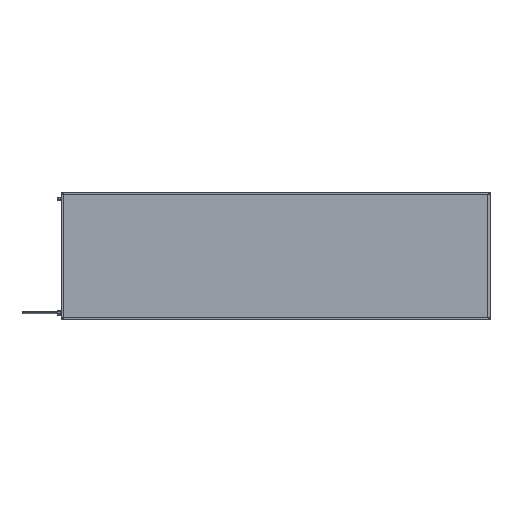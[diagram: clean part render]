
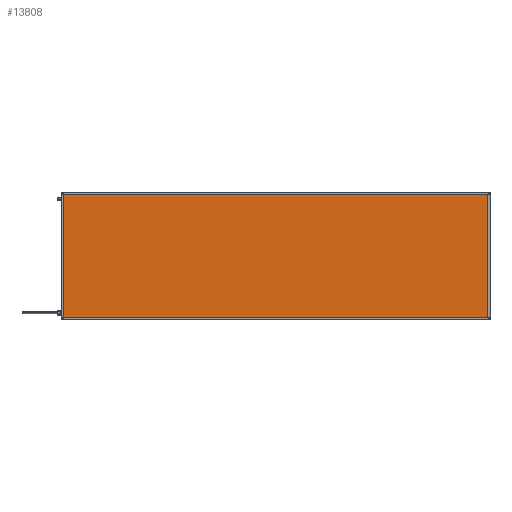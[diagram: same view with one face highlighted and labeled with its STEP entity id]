
A CAD part, top view. The second image highlights one B-rep face of the part: STEP entity #13808.
In plain terms, the highlighted planar face has unit normal (0, 0, 1).
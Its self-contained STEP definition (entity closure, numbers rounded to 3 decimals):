
#244 = FACE_OUTER_BOUND ( 'NONE', #5529, .T. ) ;
#497 = CARTESIAN_POINT ( 'NONE',  ( 0., 4., 41.85 ) ) ;
#1255 = DIRECTION ( 'NONE',  ( -1., 0., 0. ) ) ;
#1530 = DIRECTION ( 'NONE',  ( -1., 0., 0. ) ) ;
#1616 = PLANE ( 'NONE',  #4665 ) ;
#2219 = EDGE_CURVE ( 'NONE', #16887, #4879, #7937, .T. ) ;
#2282 = VECTOR ( 'NONE', #7201, 1000. ) ;
#2520 = LINE ( 'NONE', #10736, #8271 ) ;
#4150 = ORIENTED_EDGE ( 'NONE', *, *, #17283, .T. ) ;
#4665 = AXIS2_PLACEMENT_3D ( 'NONE', #16836, #14021, #1530 ) ;
#4879 = VERTEX_POINT ( 'NONE', #16865 ) ;
#5108 = DIRECTION ( 'NONE',  ( 0., -1., 0. ) ) ;
#5467 = CARTESIAN_POINT ( 'NONE',  ( 4., 0., 41.85 ) ) ;
#5529 = EDGE_LOOP ( 'NONE', ( #11521, #4150, #13872, #10620 ) ) ;
#5567 = VECTOR ( 'NONE', #5108, 1000. ) ;
#7201 = DIRECTION ( 'NONE',  ( 0., 1., 0. ) ) ;
#7937 = LINE ( 'NONE', #5467, #5567 ) ;
#8234 = VERTEX_POINT ( 'NONE', #9324 ) ;
#8271 = VECTOR ( 'NONE', #1255, 1000. ) ;
#8583 = EDGE_CURVE ( 'NONE', #8234, #17109, #12413, .T. ) ;
#8934 = CARTESIAN_POINT ( 'NONE',  ( 4., 496., 41.85 ) ) ;
#9324 = CARTESIAN_POINT ( 'NONE',  ( 1696., 4., 41.85 ) ) ;
#10010 = LINE ( 'NONE', #497, #16618 ) ;
#10620 = ORIENTED_EDGE ( 'NONE', *, *, #11402, .T. ) ;
#10647 = CARTESIAN_POINT ( 'NONE',  ( 1696., 496., 41.85 ) ) ;
#10736 = CARTESIAN_POINT ( 'NONE',  ( 0., 496., 41.85 ) ) ;
#11402 = EDGE_CURVE ( 'NONE', #4879, #8234, #10010, .T. ) ;
#11521 = ORIENTED_EDGE ( 'NONE', *, *, #8583, .T. ) ;
#12413 = LINE ( 'NONE', #15500, #2282 ) ;
#13808 = ADVANCED_FACE ( 'NONE', ( #244 ), #1616, .F. ) ;
#13872 = ORIENTED_EDGE ( 'NONE', *, *, #2219, .T. ) ;
#14021 = DIRECTION ( 'NONE',  ( 0., 0., -1. ) ) ;
#15500 = CARTESIAN_POINT ( 'NONE',  ( 1696., 0., 41.85 ) ) ;
#15635 = DIRECTION ( 'NONE',  ( 1., 0., 0. ) ) ;
#16618 = VECTOR ( 'NONE', #15635, 1000. ) ;
#16836 = CARTESIAN_POINT ( 'NONE',  ( 0., 0., 41.85 ) ) ;
#16865 = CARTESIAN_POINT ( 'NONE',  ( 4., 4., 41.85 ) ) ;
#16887 = VERTEX_POINT ( 'NONE', #8934 ) ;
#17109 = VERTEX_POINT ( 'NONE', #10647 ) ;
#17283 = EDGE_CURVE ( 'NONE', #17109, #16887, #2520, .T. ) ;
